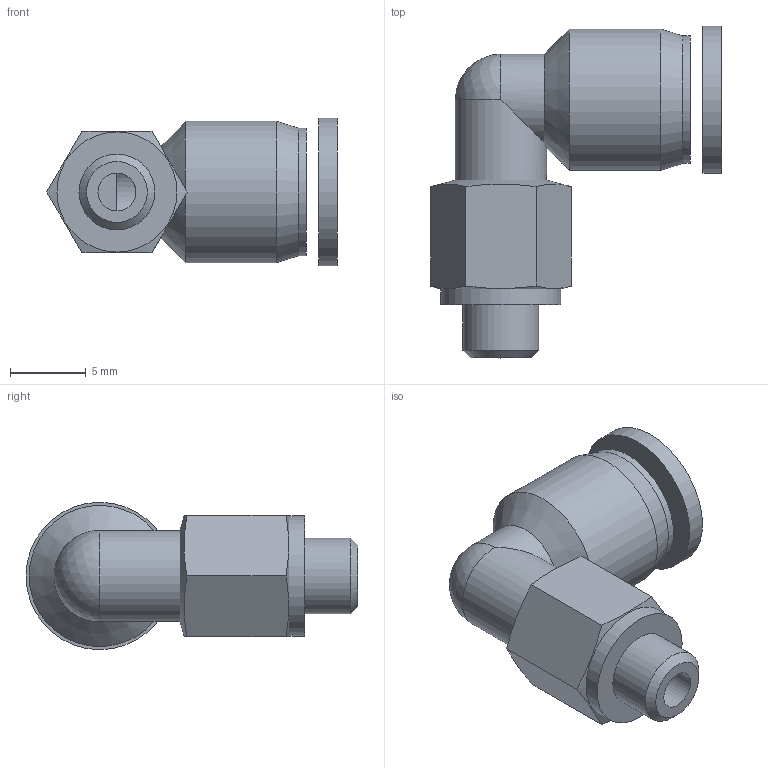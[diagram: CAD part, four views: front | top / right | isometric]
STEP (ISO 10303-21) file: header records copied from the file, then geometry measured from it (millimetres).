
FILE_DESCRIPTION((''),'2;1');
FILE_NAME('S:\UTecnico\ArchivioUT\Speciali Clienti\Speciali KONFIT\RP\04\RP72\RP72M504C.stp','2012-04-10T13:39:38',('UT5'),(''),'Autodesk Inventor 2012','Autodesk Inventor 2012','');
FILE_SCHEMA(('AUTOMOTIVE_DESIGN { 1 0 10303 214 1 1 1 1 }'));
Length unit declared in the file: millimetre
Products named in the file (1): RP72M504C
Bounding box: 19.12 x 21.85 x 9.7 mm (x, y, z)
Volume: 1169.4 mm3; surface area: 1284.3 mm2
Topology: 2 solids, 2 shells, 29 faces, 65 edges, 41 vertices
Faces by surface type: plane 13, cylinder 10, cone 5, sphere 1
Full cylindrical faces by diameter (mm): 2.5 x1, 4 x2, 5 x1, 6 x1, 7.9 x1, 8.4 x1, 9.3 x1, 9.7 x1
Entity records: 756 total; most frequent: CARTESIAN_POINT 162, DIRECTION 115, ORIENTED_EDGE 92, AXIS2_PLACEMENT_3D 53, EDGE_LOOP 48, EDGE_CURVE 46, VERTEX_POINT 36, FACE_OUTER_BOUND 29
